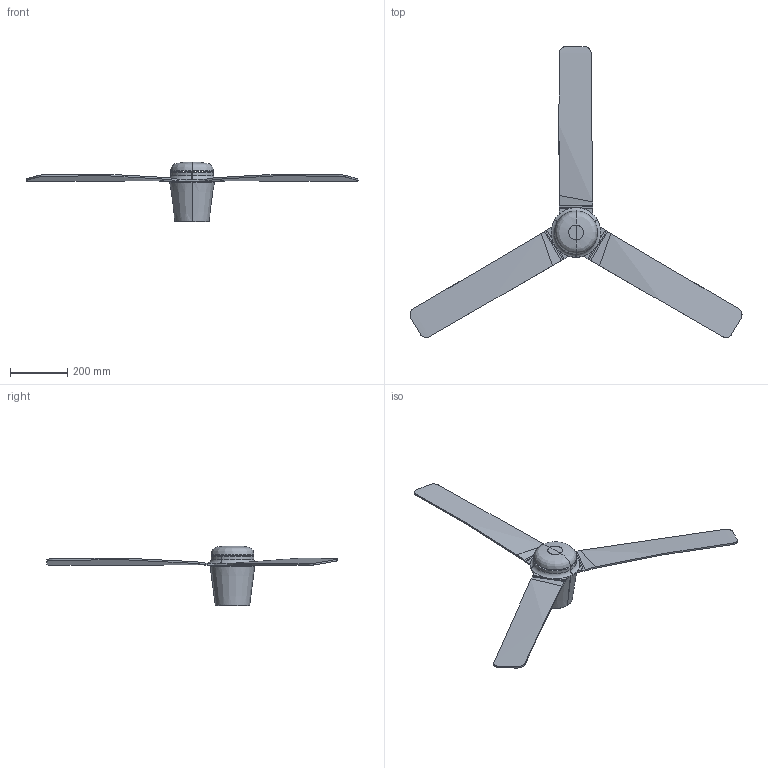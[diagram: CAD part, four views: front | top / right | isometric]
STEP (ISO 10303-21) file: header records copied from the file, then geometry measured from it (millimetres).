
FILE_DESCRIPTION(/* description */ (''),/* implementation_level */ '2;1');
FILE_NAME(/* name */ '33828.step',/* time_stamp */ '2024-04-25T13:51:27+02:00',/* author */ ('RenataManzini'),/* organization */ (''),/* preprocessor_version */ 'ST-DEVELOPER v20',/* originating_system */ 'AutoCAD Mechanical',/* authorisation */ '');
FILE_SCHEMA (('AUTOMOTIVE_DESIGN { 1 0 10303 214 3 1 1 }'));
Length unit declared in the file: millimetre
Products named in the file (2): Product; PUNT_TUB_M - fan-527154-_3D_
Assembly tree (1 placements, depth 2):
  Product
    PUNT_TUB_M - fan-527154-_3D_
Bounding box: 1161.54 x 1017.63 x 208.4 mm (x, y, z)
Volume: 2311918.5 mm3; surface area: 733641 mm2
Topology: 6 solids, 6 shells, 192 faces, 520 edges, 342 vertices
Faces by surface type: plane 69, cylinder 62, bspline 32, cone 16, torus 13
Entity records: 8277 total; most frequent: CARTESIAN_POINT 3602, ORIENTED_EDGE 1034, DIRECTION 847, EDGE_CURVE 517, VERTEX_POINT 337, AXIS2_PLACEMENT_3D 306, LINE 235, VECTOR 235
